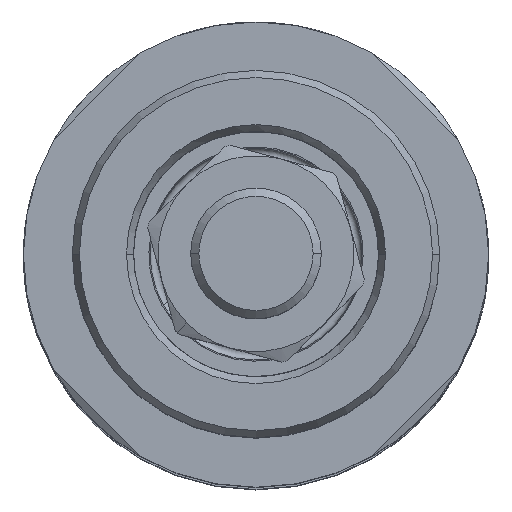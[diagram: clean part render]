
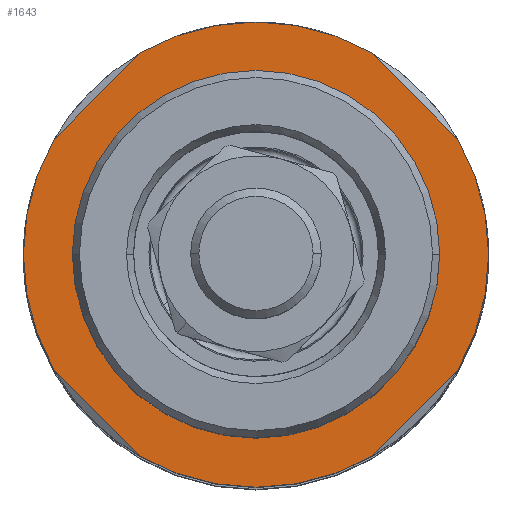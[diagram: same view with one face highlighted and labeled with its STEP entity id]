
A CAD part, top view. The second image highlights one B-rep face of the part: STEP entity #1643.
In plain terms, the highlighted planar face has unit normal (0, 0, 1).
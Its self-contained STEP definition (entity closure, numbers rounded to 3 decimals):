
#140 = EDGE_LOOP ( 'NONE', ( #4510, #1891, #2615, #602, #1004, #6656, #6198, #3290, #2546, #7229 ) ) ;
#164 = CARTESIAN_POINT ( 'NONE',  ( 0., 0., 90. ) ) ;
#295 = AXIS2_PLACEMENT_3D ( 'NONE', #7956, #3603, #5501 ) ;
#371 = EDGE_CURVE ( 'NONE', #2351, #1137, #7835, .T. ) ;
#396 = CIRCLE ( 'NONE', #985, 28.5 ) ;
#407 = DIRECTION ( 'NONE',  ( 0., 0., -1. ) ) ;
#434 = DIRECTION ( 'NONE',  ( 0., 0., 1. ) ) ;
#561 = EDGE_CURVE ( 'NONE', #3256, #3860, #2248, .T. ) ;
#565 = CARTESIAN_POINT ( 'NONE',  ( 0., 0., 90. ) ) ;
#572 = EDGE_CURVE ( 'NONE', #3256, #2757, #396, .T. ) ;
#602 = ORIENTED_EDGE ( 'NONE', *, *, #3483, .T. ) ;
#631 = CARTESIAN_POINT ( 'NONE',  ( -19.445, 19.445, 90. ) ) ;
#733 = CARTESIAN_POINT ( 'NONE',  ( 0., 0., 90. ) ) ;
#824 = EDGE_LOOP ( 'NONE', ( #1323, #1824 ) ) ;
#904 = VERTEX_POINT ( 'NONE', #6977 ) ;
#985 = AXIS2_PLACEMENT_3D ( 'NONE', #2625, #4527, #7721 ) ;
#1004 = ORIENTED_EDGE ( 'NONE', *, *, #371, .F. ) ;
#1137 = VERTEX_POINT ( 'NONE', #2309 ) ;
#1216 = EDGE_CURVE ( 'NONE', #2416, #2757, #1848, .T. ) ;
#1229 = CARTESIAN_POINT ( 'NONE',  ( 24.737, 14.154, 90. ) ) ;
#1271 = VECTOR ( 'NONE', #6919, 1000. ) ;
#1323 = ORIENTED_EDGE ( 'NONE', *, *, #3806, .F. ) ;
#1599 = PLANE ( 'NONE',  #1902 ) ;
#1643 = ADVANCED_FACE ( 'NONE', ( #4670, #4391 ), #1599, .F. ) ;
#1691 = CARTESIAN_POINT ( 'NONE',  ( -19.445, -19.445, 90. ) ) ;
#1774 = CARTESIAN_POINT ( 'NONE',  ( 14.154, -24.737, 90. ) ) ;
#1824 = ORIENTED_EDGE ( 'NONE', *, *, #3918, .F. ) ;
#1848 = LINE ( 'NONE', #4366, #6232 ) ;
#1891 = ORIENTED_EDGE ( 'NONE', *, *, #3578, .T. ) ;
#1902 = AXIS2_PLACEMENT_3D ( 'NONE', #3467, #407, #7808 ) ;
#1930 = CIRCLE ( 'NONE', #6907, 28.5 ) ;
#1954 = AXIS2_PLACEMENT_3D ( 'NONE', #733, #6335, #2554 ) ;
#1964 = VECTOR ( 'NONE', #5038, 1000. ) ;
#2037 = CARTESIAN_POINT ( 'NONE',  ( 14.154, 24.737, 90. ) ) ;
#2221 = DIRECTION ( 'NONE',  ( -1., 0., 0. ) ) ;
#2248 = LINE ( 'NONE', #631, #1964 ) ;
#2307 = AXIS2_PLACEMENT_3D ( 'NONE', #2917, #7193, #2221 ) ;
#2309 = CARTESIAN_POINT ( 'NONE',  ( 24.737, -14.154, 90. ) ) ;
#2351 = VERTEX_POINT ( 'NONE', #5629 ) ;
#2416 = VERTEX_POINT ( 'NONE', #1229 ) ;
#2523 = CIRCLE ( 'NONE', #295, 28.5 ) ;
#2546 = ORIENTED_EDGE ( 'NONE', *, *, #561, .T. ) ;
#2554 = DIRECTION ( 'NONE',  ( -1., 0., 0. ) ) ;
#2615 = ORIENTED_EDGE ( 'NONE', *, *, #5832, .F. ) ;
#2625 = CARTESIAN_POINT ( 'NONE',  ( 0., 0., 90. ) ) ;
#2627 = CARTESIAN_POINT ( 'NONE',  ( -28.5, 0., 90. ) ) ;
#2757 = VERTEX_POINT ( 'NONE', #2037 ) ;
#2917 = CARTESIAN_POINT ( 'NONE',  ( 0., 0., 90. ) ) ;
#3012 = CARTESIAN_POINT ( 'NONE',  ( 0., 0., 90. ) ) ;
#3018 = AXIS2_PLACEMENT_3D ( 'NONE', #3568, #434, #6092 ) ;
#3256 = VERTEX_POINT ( 'NONE', #5209 ) ;
#3290 = ORIENTED_EDGE ( 'NONE', *, *, #572, .F. ) ;
#3301 = DIRECTION ( 'NONE',  ( -1., 0., 0. ) ) ;
#3416 = CARTESIAN_POINT ( 'NONE',  ( 22.5, 0., 90. ) ) ;
#3467 = CARTESIAN_POINT ( 'NONE',  ( 0., 0., 90. ) ) ;
#3483 = EDGE_CURVE ( 'NONE', #4545, #1137, #6332, .T. ) ;
#3568 = CARTESIAN_POINT ( 'NONE',  ( 0., 0., 90. ) ) ;
#3578 = EDGE_CURVE ( 'NONE', #904, #5316, #6719, .T. ) ;
#3603 = DIRECTION ( 'NONE',  ( 0., 0., -1. ) ) ;
#3637 = EDGE_CURVE ( 'NONE', #7591, #3860, #1930, .T. ) ;
#3806 = EDGE_CURVE ( 'NONE', #6798, #4243, #4573, .T. ) ;
#3860 = VERTEX_POINT ( 'NONE', #7918 ) ;
#3918 = EDGE_CURVE ( 'NONE', #4243, #6798, #5932, .T. ) ;
#4243 = VERTEX_POINT ( 'NONE', #3416 ) ;
#4366 = CARTESIAN_POINT ( 'NONE',  ( 19.445, 19.445, 90. ) ) ;
#4391 = FACE_BOUND ( 'NONE', #824, .T. ) ;
#4510 = ORIENTED_EDGE ( 'NONE', *, *, #4997, .F. ) ;
#4527 = DIRECTION ( 'NONE',  ( 0., 0., -1. ) ) ;
#4545 = VERTEX_POINT ( 'NONE', #1774 ) ;
#4573 = CIRCLE ( 'NONE', #3018, 22.5 ) ;
#4670 = FACE_OUTER_BOUND ( 'NONE', #140, .T. ) ;
#4692 = CIRCLE ( 'NONE', #6866, 28.5 ) ;
#4809 = DIRECTION ( 'NONE',  ( 0.707, -0.707, 0. ) ) ;
#4997 = EDGE_CURVE ( 'NONE', #904, #7591, #2523, .T. ) ;
#5025 = DIRECTION ( 'NONE',  ( -1., 0., 0. ) ) ;
#5038 = DIRECTION ( 'NONE',  ( -0.707, -0.707, 0. ) ) ;
#5051 = DIRECTION ( 'NONE',  ( -0.707, 0.707, 0. ) ) ;
#5107 = VECTOR ( 'NONE', #4809, 1000. ) ;
#5135 = AXIS2_PLACEMENT_3D ( 'NONE', #565, #5605, #5025 ) ;
#5209 = CARTESIAN_POINT ( 'NONE',  ( -14.154, 24.737, 90. ) ) ;
#5316 = VERTEX_POINT ( 'NONE', #5922 ) ;
#5501 = DIRECTION ( 'NONE',  ( -1., 0., 0. ) ) ;
#5605 = DIRECTION ( 'NONE',  ( 0., 0., 1. ) ) ;
#5629 = CARTESIAN_POINT ( 'NONE',  ( 28.5, 0., 90. ) ) ;
#5832 = EDGE_CURVE ( 'NONE', #4545, #5316, #6657, .T. ) ;
#5922 = CARTESIAN_POINT ( 'NONE',  ( -14.154, -24.737, 90. ) ) ;
#5932 = CIRCLE ( 'NONE', #5135, 22.5 ) ;
#6092 = DIRECTION ( 'NONE',  ( -1., 0., 0. ) ) ;
#6198 = ORIENTED_EDGE ( 'NONE', *, *, #1216, .T. ) ;
#6232 = VECTOR ( 'NONE', #5051, 1000. ) ;
#6332 = LINE ( 'NONE', #7613, #1271 ) ;
#6335 = DIRECTION ( 'NONE',  ( 0., 0., -1. ) ) ;
#6656 = ORIENTED_EDGE ( 'NONE', *, *, #7348, .F. ) ;
#6657 = CIRCLE ( 'NONE', #1954, 28.5 ) ;
#6668 = CARTESIAN_POINT ( 'NONE',  ( -22.5, 0., 90. ) ) ;
#6719 = LINE ( 'NONE', #1691, #5107 ) ;
#6780 = DIRECTION ( 'NONE',  ( 0., 0., -1. ) ) ;
#6798 = VERTEX_POINT ( 'NONE', #6668 ) ;
#6866 = AXIS2_PLACEMENT_3D ( 'NONE', #164, #7706, #3301 ) ;
#6907 = AXIS2_PLACEMENT_3D ( 'NONE', #3012, #6780, #8007 ) ;
#6919 = DIRECTION ( 'NONE',  ( 0.707, 0.707, 0. ) ) ;
#6977 = CARTESIAN_POINT ( 'NONE',  ( -24.737, -14.154, 90. ) ) ;
#7193 = DIRECTION ( 'NONE',  ( 0., 0., -1. ) ) ;
#7229 = ORIENTED_EDGE ( 'NONE', *, *, #3637, .F. ) ;
#7348 = EDGE_CURVE ( 'NONE', #2416, #2351, #4692, .T. ) ;
#7591 = VERTEX_POINT ( 'NONE', #2627 ) ;
#7613 = CARTESIAN_POINT ( 'NONE',  ( 19.445, -19.445, 90. ) ) ;
#7706 = DIRECTION ( 'NONE',  ( 0., 0., -1. ) ) ;
#7721 = DIRECTION ( 'NONE',  ( -1., 0., 0. ) ) ;
#7808 = DIRECTION ( 'NONE',  ( -1., 0., 0. ) ) ;
#7835 = CIRCLE ( 'NONE', #2307, 28.5 ) ;
#7918 = CARTESIAN_POINT ( 'NONE',  ( -24.737, 14.154, 90. ) ) ;
#7956 = CARTESIAN_POINT ( 'NONE',  ( 0., 0., 90. ) ) ;
#8007 = DIRECTION ( 'NONE',  ( -1., 0., 0. ) ) ;
